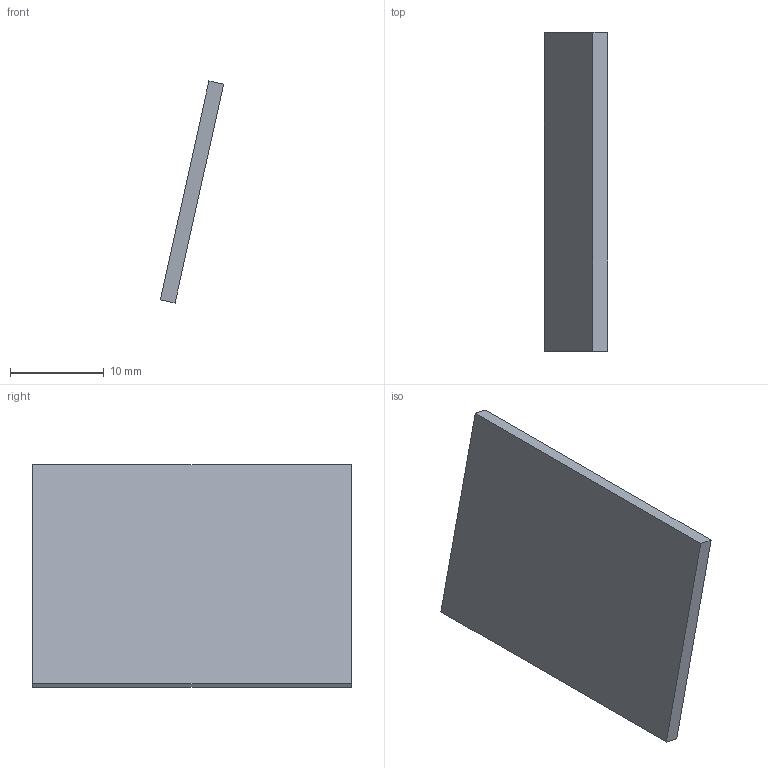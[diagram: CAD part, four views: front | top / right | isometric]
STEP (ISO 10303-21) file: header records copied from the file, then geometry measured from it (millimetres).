
FILE_DESCRIPTION(('Open CASCADE Model'),'2;1');
FILE_NAME('Open CASCADE Shape Model','2026-10-16T05:25:08',('Author'),( 'Open CASCADE'),'Open CASCADE STEP processor 7.9','Open CASCADE 7.9' ,'Unknown');
FILE_SCHEMA(('AUTOMOTIVE_DESIGN { 1 0 10303 214 1 1 1 1 }'));
Length unit declared in the file: millimetre
Products named in the file (1): Open CASCADE STEP translator 7.9 4
Bounding box: 6.74 x 34 x 23.68 mm (x, y, z)
Volume: 1300.2 mm3; surface area: 1810.5 mm2
Topology: 1 solids, 1 shells, 6 faces, 12 edges, 8 vertices
Faces by surface type: plane 6
Entity records: 322 total; most frequent: CARTESIAN_POINT 51, DIRECTION 50, LINE 36, VECTOR 36, ORIENTED_EDGE 24, PCURVE 24, DEFINITIONAL_REPRESENTATION 24, EDGE_CURVE 12
